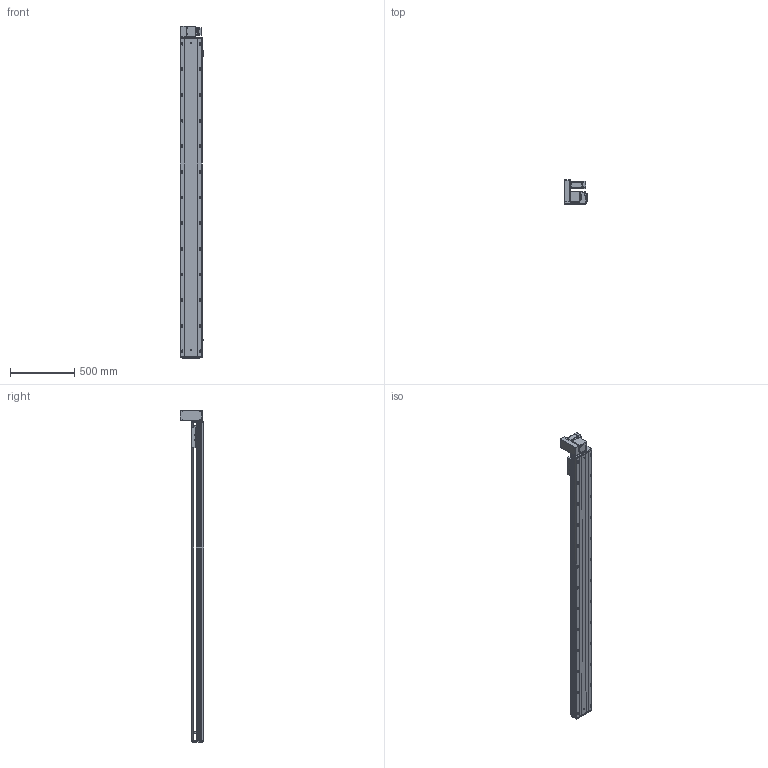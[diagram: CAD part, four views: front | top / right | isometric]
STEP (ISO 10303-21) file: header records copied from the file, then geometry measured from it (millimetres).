
FILE_DESCRIPTION (( 'STEP AP203' ), '1' );
FILE_NAME ('RY170-T-300-UL-P400W.SLDASM_2200.step', '2021-03-02T02:14:41', ( '盈信电脑' ), ( '东莞市道滘镇水果街19号' ), 'SwSTEP 2.0', 'SolidWorks 2012', '' );
FILE_SCHEMA (( 'CONFIG_CONTROL_DESIGN' ));
Products named in the file (18): RY170同步轮电机安装板(400W); RY170-T蹟翐M4; RY170-T-300-UL-P400W.SLDASM_2200; 15; 滅袉蝶18-10; RY170-T肮祭謫裔啣; RY120-T主同步轮轴承压盖; RY170肮祭謫萇儂欶; RY170翋肮祭謫釱; RY170-T肮祭湍揤踡輸1; RY170-T肮祭湍揤踡輸2; RY170肮祭謫ヶ裔啣; RY170綴裔啣; 覜茼ん672; RY170外置感应片(200共用）; RY170-T-300肮祭謫倰第裔啣-DL_2200; RY170-T-300肮祭謫倰第菁釱-DL_2200; RY170肮祭湍臏賑輸
Assembly tree (20 placements, depth 2):
  RY170-T-300-UL-P400W.SLDASM_2200
    RY170-T-300肮祭謫倰第菁釱-DL_2200
    RY170肮祭湍臏賑輸
    RY170-T-300肮祭謫倰第裔啣-DL_2200
    RY170綴裔啣
    覜茼ん672  x3
    RY170外置感应片(200共用）
    RY170肮祭謫ヶ裔啣
    RY170翋肮祭謫釱
    RY170-T肮祭湍揤踡輸1
    RY170-T肮祭湍揤踡輸2
    RY170-T肮祭謫裔啣
    滅袉蝶18-10  x2
    RY120-T主同步轮轴承压盖
    RY170肮祭謫萇儂欶
    RY170同步轮电机安装板(400W)
    RY170-T蹟翐M4
    15
Bounding box: 183.7 x 184 x 2588 mm (x, y, z)
Volume: 11880116.7 mm3; surface area: 4094235.9 mm2
Topology: 20 solids, 20 shells, 2893 faces, 8174 edges, 5191 vertices
Faces by surface type: cylinder 1386, plane 1157, cone 320, bspline 30
Entity records: 94000 total; most frequent: CARTESIAN_POINT 22058, ORIENTED_EDGE 14824, DIRECTION 14386, EDGE_CURVE 7412, AXIS2_PLACEMENT_3D 5121, VERTEX_POINT 4859, VECTOR 4144, LINE 4144
